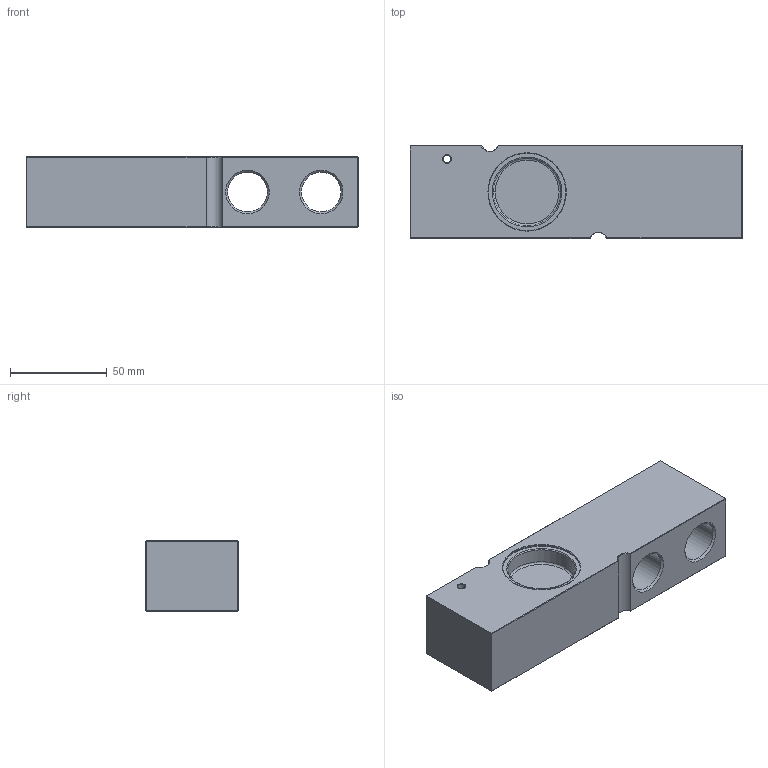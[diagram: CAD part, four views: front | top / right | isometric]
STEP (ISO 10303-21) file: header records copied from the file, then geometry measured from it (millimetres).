
FILE_DESCRIPTION (( 'STEP AP214' ), '1' );
FILE_NAME ('3510-3000, 5000kg-T.STEP', '2024-01-29T10:31:06', ( '' ), ( '' ), 'SwSTEP 2.0', 'SolidWorks 2019', '' );
FILE_SCHEMA (( 'AUTOMOTIVE_DESIGN' ));
Length unit declared in the file: millimetre
Products named in the file (2): 3510-3000, 5000kg-T
Bounding box: 171.5 x 48 x 36.5 mm (x, y, z)
Volume: 236160.2 mm3; surface area: 40596.4 mm2
Topology: 1 solids, 1 shells, 89 faces, 202 edges, 118 vertices
Faces by surface type: plane 37, cone 22, cylinder 20, torus 10
Entity records: 2759 total; most frequent: CARTESIAN_POINT 545, DIRECTION 454, ORIENTED_EDGE 404, EDGE_CURVE 202, AXIS2_PLACEMENT_3D 179, VERTEX_POINT 118, EDGE_LOOP 100, VECTOR 96
